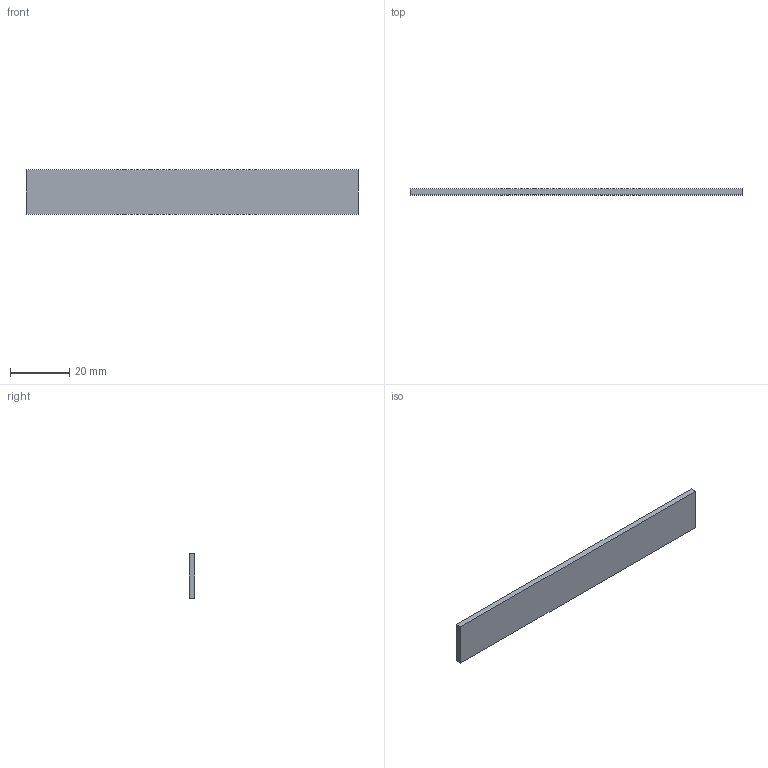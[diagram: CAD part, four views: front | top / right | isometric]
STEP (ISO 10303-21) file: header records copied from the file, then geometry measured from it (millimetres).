
FILE_DESCRIPTION (( 'STEP AP203' ), '1' );
FILE_NAME ('Abaqus_bottomB.STEP', '2013-07-29T15:34:32', ( '' ), ( '' ), 'SwSTEP 2.0', 'SolidWorks 2012', '' );
FILE_SCHEMA (( 'CONFIG_CONTROL_DESIGN' ));
Length unit declared in the file: millimetre
Products named in the file (1): Abaqus_bottomB
Bounding box: 112 x 2 x 15 mm (x, y, z)
Volume: 3360 mm3; surface area: 3868 mm2
Topology: 1 solids, 1 shells, 6 faces, 12 edges, 8 vertices
Faces by surface type: plane 6
Entity records: 233 total; most frequent: CARTESIAN_POINT 27, DIRECTION 26, ORIENTED_EDGE 24, VECTOR 12, LINE 12, EDGE_CURVE 12, PERSON_AND_ORGANIZATION 8, VERTEX_POINT 8
